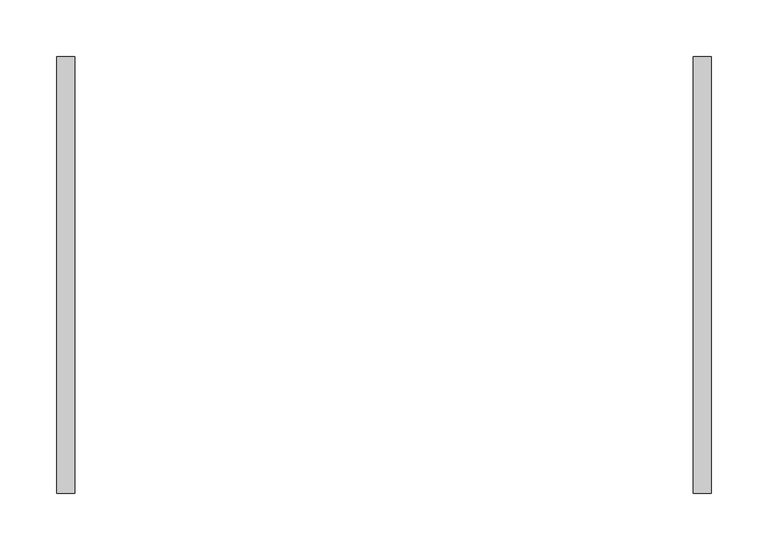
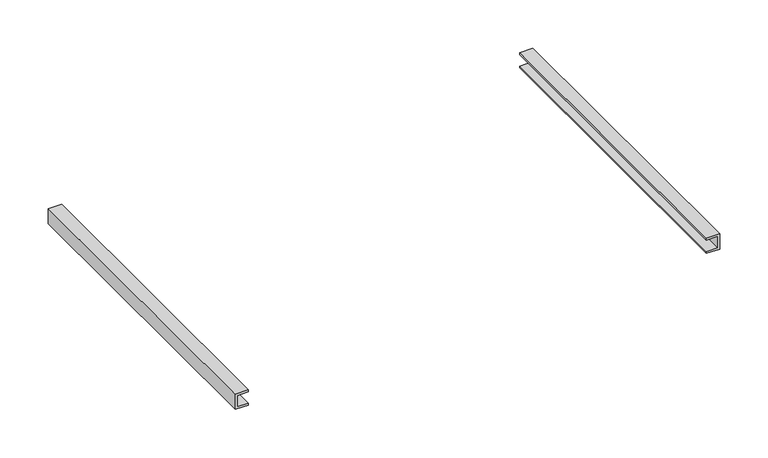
"""IFC4 building model written with IfcOpenShell, lengths in millimetres: furniture geometry."""

from ifc_helpers import new_model, si_unit, frame, origin, place, context, project, spatial, polyline, outline, extrude, source, transform, mapped, element, save


def furniture_a25c7143(model_context):
    return source(origin(), model_context, "Body", "SweptSolid", [
        extrude(outline(polyline([(844.55, -273.05), (846.93125, -273.05), (846.93125, -286.54375), (861.21875, -286.54375), (861.21875, -273.05), (863.6, -273.05), (863.6, -288.925), (844.55, -288.925), (844.55, -273.05)])), frame((0.0, -385.7625, 0.0), z_axis=(0.0, 1.0, 0.0), x_axis=(0.0, 0.0, 1.0)), (0.0, 0.0, 1.0), 385.7625),
        extrude(outline(polyline([(844.55, 273.05), (844.55, 288.925), (863.6, 288.925), (863.6, 273.05), (861.21875, 273.05), (861.21875, 286.54375), (846.93125, 286.54375), (846.93125, 273.05), (844.55, 273.05)])), frame((0.0, -385.7625, 0.0), z_axis=(0.0, 1.0, 0.0), x_axis=(0.0, 0.0, 1.0)), (0.0, 0.0, 1.0), 385.7625),
    ])


if __name__ == "__main__":
    model = new_model("IFC4")
    model_context = context("Model", 3, world=origin())
    ifc_project = project(units=[si_unit("LENGTHUNIT", "METRE", prefix="MILLI")], contexts=[model_context])
    site = spatial("IfcSite", under=ifc_project)
    building = spatial("IfcBuilding", under=site)
    placement = place(None, origin())
    furniture_shape = furniture_a25c7143(model_context)
    element("IfcFurniture", 1, ObjectType="HermanMiller_CoStruc_CO266_GripperPackage : 15\"D x 22-1/2\"W", at=placement, inside=building, context=model_context, shape_type="MappedRepresentation", body=[
        mapped(furniture_shape, transform((0.0, 0.0, 0.0), x_axis=(1.0, 0.0, 0.0), y_axis=(0.0, 1.0, 0.0), z_axis=(0.0, 0.0, 1.0))),
    ])
    save(model, "model.ifc")
